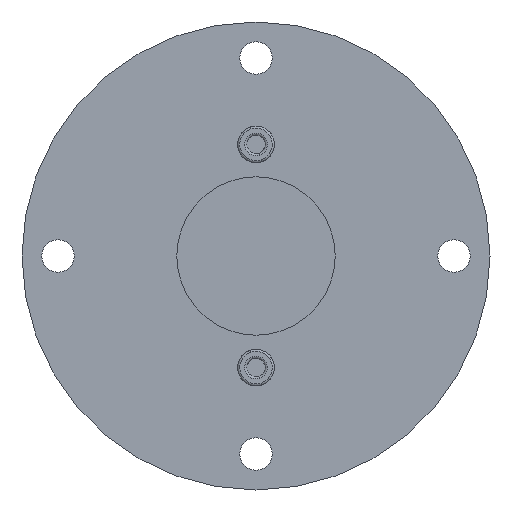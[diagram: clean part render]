
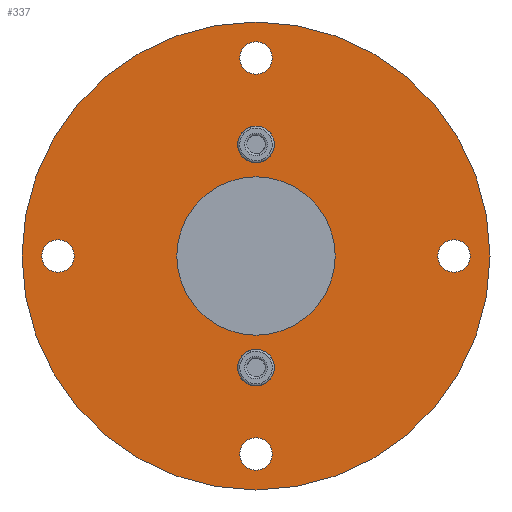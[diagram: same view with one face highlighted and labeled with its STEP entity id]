
A CAD part, front view. The second image highlights one B-rep face of the part: STEP entity #337.
In plain terms, the highlighted planar face has unit normal (0, -1, 0).
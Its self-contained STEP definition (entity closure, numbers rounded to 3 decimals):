
#18=CARTESIAN_POINT('',(-5.1,3.0,-31.0));
#19=VERTEX_POINT('',#18);
#26=CARTESIAN_POINT('',(5.1,3.0,-31.0));
#27=VERTEX_POINT('',#26);
#28=CARTESIAN_POINT('',(0.0,3.0,-31.0));
#29=DIRECTION('',(0.0,-1.0,-0.0));
#30=DIRECTION('',(-1.0,0.0,-0.0));
#31=AXIS2_PLACEMENT_3D('',#28,#29,#30);
#32=CIRCLE('',#31,5.1);
#33=EDGE_CURVE('no 579',#19,#27,#32,.T.);
#69=CARTESIAN_POINT('',(-5.1,3.0,31.0));
#70=VERTEX_POINT('',#69);
#77=CARTESIAN_POINT('',(5.1,3.0,31.0));
#78=VERTEX_POINT('',#77);
#79=CARTESIAN_POINT('',(0.0,3.0,31.0));
#80=DIRECTION('',(0.0,-1.0,0.0));
#81=DIRECTION('',(1.0,0.0,0.0));
#82=AXIS2_PLACEMENT_3D('',#79,#80,#81);
#83=CIRCLE('',#82,5.1);
#84=EDGE_CURVE('no 613',#70,#78,#83,.T.);
#162=CARTESIAN_POINT('',(-65.0,3.0,0.0));
#163=VERTEX_POINT('',#162);
#179=CARTESIAN_POINT('',(65.0,3.0,0.0));
#180=VERTEX_POINT('',#179);
#187=CARTESIAN_POINT('',(0.0,3.0,0.0));
#188=DIRECTION('',(0.0,-1.0,0.0));
#189=DIRECTION('',(1.0,0.0,0.0));
#190=AXIS2_PLACEMENT_3D('',#187,#188,#189);
#191=CIRCLE('',#190,65.0);
#192=EDGE_CURVE('no 685',#163,#180,#191,.T.);
#202=CARTESIAN_POINT('',(0.0,3.0,-31.0));
#203=DIRECTION('',(0.0,-1.0,-0.0));
#204=DIRECTION('',(-1.0,0.0,-0.0));
#205=AXIS2_PLACEMENT_3D('',#202,#203,#204);
#206=CIRCLE('',#205,5.1);
#207=EDGE_CURVE('no 692',#27,#19,#206,.T.);
#208=ORIENTED_EDGE('',*,*,#207,.F.);
#209=ORIENTED_EDGE('',*,*,#33,.F.);
#210=EDGE_LOOP('',(#208,#209));
#211=FACE_BOUND('',#210,.T.);
#212=ORIENTED_EDGE('',*,*,#84,.F.);
#213=CARTESIAN_POINT('',(0.0,3.0,31.0));
#214=DIRECTION('',(0.0,-1.0,0.0));
#215=DIRECTION('',(1.0,0.0,0.0));
#216=AXIS2_PLACEMENT_3D('',#213,#214,#215);
#217=CIRCLE('',#216,5.1);
#218=EDGE_CURVE('no 701',#78,#70,#217,.T.);
#219=ORIENTED_EDGE('',*,*,#218,.F.);
#220=EDGE_LOOP('',(#212,#219));
#221=FACE_BOUND('',#220,.T.);
#222=CARTESIAN_POINT('',(50.5,3.0,0.0));
#223=VERTEX_POINT('',#222);
#224=CARTESIAN_POINT('',(59.5,3.0,0.0));
#225=VERTEX_POINT('',#224);
#226=CARTESIAN_POINT('',(55.0,3.0,0.0));
#227=DIRECTION('',(0.0,-1.0,0.0));
#228=DIRECTION('',(1.0,0.0,0.0));
#229=AXIS2_PLACEMENT_3D('',#226,#227,#228);
#230=CIRCLE('',#229,4.5);
#231=EDGE_CURVE('no 710',#223,#225,#230,.T.);
#232=ORIENTED_EDGE('',*,*,#231,.F.);
#233=CARTESIAN_POINT('',(55.0,3.0,0.0));
#234=DIRECTION('',(0.0,-1.0,0.0));
#235=DIRECTION('',(1.0,0.0,0.0));
#236=AXIS2_PLACEMENT_3D('',#233,#234,#235);
#237=CIRCLE('',#236,4.5);
#238=EDGE_CURVE('no 714',#225,#223,#237,.T.);
#239=ORIENTED_EDGE('',*,*,#238,.F.);
#240=EDGE_LOOP('',(#232,#239));
#241=FACE_BOUND('',#240,.T.);
#242=CARTESIAN_POINT('',(-4.5,3.0,-55.0));
#243=VERTEX_POINT('',#242);
#244=CARTESIAN_POINT('',(4.5,3.0,-55.0));
#245=VERTEX_POINT('',#244);
#246=CARTESIAN_POINT('',(0.0,3.0,-55.0));
#247=DIRECTION('',(0.0,-1.0,0.0));
#248=DIRECTION('',(1.0,0.0,0.0));
#249=AXIS2_PLACEMENT_3D('',#246,#247,#248);
#250=CIRCLE('',#249,4.5);
#251=EDGE_CURVE('no 723',#243,#245,#250,.T.);
#252=ORIENTED_EDGE('',*,*,#251,.F.);
#253=CARTESIAN_POINT('',(0.0,3.0,-55.0));
#254=DIRECTION('',(0.0,-1.0,0.0));
#255=DIRECTION('',(1.0,0.0,0.0));
#256=AXIS2_PLACEMENT_3D('',#253,#254,#255);
#257=CIRCLE('',#256,4.5);
#258=EDGE_CURVE('no 727',#245,#243,#257,.T.);
#259=ORIENTED_EDGE('',*,*,#258,.F.);
#260=EDGE_LOOP('',(#252,#259));
#261=FACE_BOUND('',#260,.T.);
#262=CARTESIAN_POINT('',(-59.5,3.0,-0.0));
#263=VERTEX_POINT('',#262);
#264=CARTESIAN_POINT('',(-50.5,3.0,-0.0));
#265=VERTEX_POINT('',#264);
#266=CARTESIAN_POINT('',(-55.0,3.0,-0.0));
#267=DIRECTION('',(0.0,-1.0,0.0));
#268=DIRECTION('',(1.0,0.0,0.0));
#269=AXIS2_PLACEMENT_3D('',#266,#267,#268);
#270=CIRCLE('',#269,4.5);
#271=EDGE_CURVE('no 736',#263,#265,#270,.T.);
#272=ORIENTED_EDGE('',*,*,#271,.F.);
#273=CARTESIAN_POINT('',(-55.0,3.0,-0.0));
#274=DIRECTION('',(0.0,-1.0,0.0));
#275=DIRECTION('',(1.0,0.0,0.0));
#276=AXIS2_PLACEMENT_3D('',#273,#274,#275);
#277=CIRCLE('',#276,4.5);
#278=EDGE_CURVE('no 740',#265,#263,#277,.T.);
#279=ORIENTED_EDGE('',*,*,#278,.F.);
#280=EDGE_LOOP('',(#272,#279));
#281=FACE_BOUND('',#280,.T.);
#282=CARTESIAN_POINT('',(-4.5,3.0,55.0));
#283=VERTEX_POINT('',#282);
#284=CARTESIAN_POINT('',(4.5,3.0,55.0));
#285=VERTEX_POINT('',#284);
#286=CARTESIAN_POINT('',(0.0,3.0,55.0));
#287=DIRECTION('',(0.0,-1.0,0.0));
#288=DIRECTION('',(1.0,0.0,0.0));
#289=AXIS2_PLACEMENT_3D('',#286,#287,#288);
#290=CIRCLE('',#289,4.5);
#291=EDGE_CURVE('no 749',#283,#285,#290,.T.);
#292=ORIENTED_EDGE('',*,*,#291,.F.);
#293=CARTESIAN_POINT('',(0.0,3.0,55.0));
#294=DIRECTION('',(0.0,-1.0,0.0));
#295=DIRECTION('',(1.0,0.0,0.0));
#296=AXIS2_PLACEMENT_3D('',#293,#294,#295);
#297=CIRCLE('',#296,4.5);
#298=EDGE_CURVE('no 753',#285,#283,#297,.T.);
#299=ORIENTED_EDGE('',*,*,#298,.F.);
#300=EDGE_LOOP('',(#292,#299));
#301=FACE_BOUND('',#300,.T.);
#302=CARTESIAN_POINT('',(-22.0,3.0,0.0));
#303=VERTEX_POINT('',#302);
#304=CARTESIAN_POINT('',(22.0,3.0,0.0));
#305=VERTEX_POINT('',#304);
#306=CARTESIAN_POINT('',(0.0,3.0,0.0));
#307=DIRECTION('',(0.0,-1.0,0.0));
#308=DIRECTION('',(1.0,0.0,0.0));
#309=AXIS2_PLACEMENT_3D('',#306,#307,#308);
#310=CIRCLE('',#309,22.0);
#311=EDGE_CURVE('no 762',#303,#305,#310,.T.);
#312=ORIENTED_EDGE('',*,*,#311,.F.);
#313=CARTESIAN_POINT('',(0.0,3.0,0.0));
#314=DIRECTION('',(0.0,-1.0,0.0));
#315=DIRECTION('',(1.0,0.0,0.0));
#316=AXIS2_PLACEMENT_3D('',#313,#314,#315);
#317=CIRCLE('',#316,22.0);
#318=EDGE_CURVE('no 766',#305,#303,#317,.T.);
#319=ORIENTED_EDGE('',*,*,#318,.F.);
#320=EDGE_LOOP('',(#312,#319));
#321=FACE_BOUND('',#320,.T.);
#322=CARTESIAN_POINT('',(0.0,3.0,0.0));
#323=DIRECTION('',(0.0,-1.0,0.0));
#324=DIRECTION('',(1.0,0.0,0.0));
#325=AXIS2_PLACEMENT_3D('',#322,#323,#324);
#326=CIRCLE('',#325,65.0);
#327=EDGE_CURVE('no 771',#180,#163,#326,.T.);
#328=ORIENTED_EDGE('',*,*,#327,.T.);
#329=ORIENTED_EDGE('',*,*,#192,.T.);
#330=EDGE_LOOP('',(#328,#329));
#331=FACE_OUTER_BOUND('',#330,.T.);
#332=CARTESIAN_POINT('',(0.0,3.0,0.0));
#333=DIRECTION('',(0.0,-1.0,0.0));
#334=DIRECTION('',(1.0,0.0,0.0));
#335=AXIS2_PLACEMENT_3D('',#332,#333,#334);
#336=PLANE('',#335);
#337=ADVANCED_FACE('no 687',(#211,#221,#241,#261,#281,#301,#321,#331),#336,.T.);
